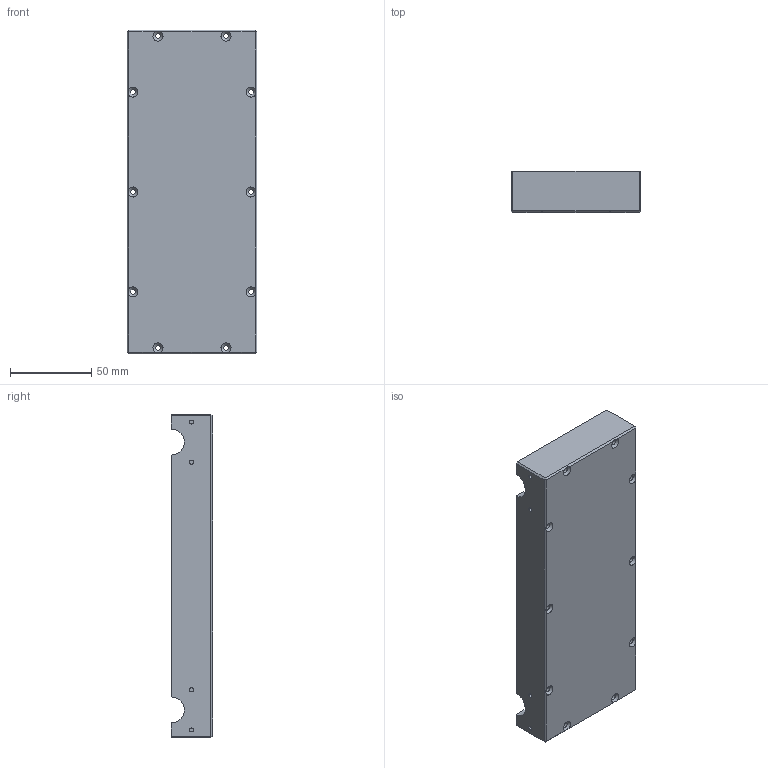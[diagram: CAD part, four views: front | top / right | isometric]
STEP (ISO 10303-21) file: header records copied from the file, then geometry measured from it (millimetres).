
FILE_DESCRIPTION(/* description */ (''),/* implementation_level */ '2;1');
FILE_NAME(/* name */ 'D:\PRJ\70cm Combiner\M-CAD\Top.stp',/* time_stamp */ '2024-12-13T13:42:12+01:00',/* author */ ('Carsten Grøn'),/* organization */ (''),/* preprocessor_version */ 'ST-DEVELOPER v18',/* originating_system */ 'Autodesk Inventor 2020',/* authorisation */ '');
FILE_SCHEMA (('AUTOMOTIVE_DESIGN { 1 0 10303 214 3 1 1 }'));
Length unit declared in the file: millimetre
Products named in the file (1): Top
Bounding box: 80.01 x 25.4 x 199.39 mm (x, y, z)
Volume: 167053.7 mm3; surface area: 57914.1 mm2
Topology: 1 solids, 1 shells, 90 faces, 273 edges, 184 vertices
Faces by surface type: plane 47, cylinder 33, cone 10
Full cylindrical faces by diameter (mm): 2.459 x8, 3.2 x10, 12.8 x1
Entity records: 3206 total; most frequent: CARTESIAN_POINT 588, DIRECTION 559, ORIENTED_EDGE 546, EDGE_CURVE 273, AXIS2_PLACEMENT_3D 209, VERTEX_POINT 184, LINE 141, VECTOR 141
